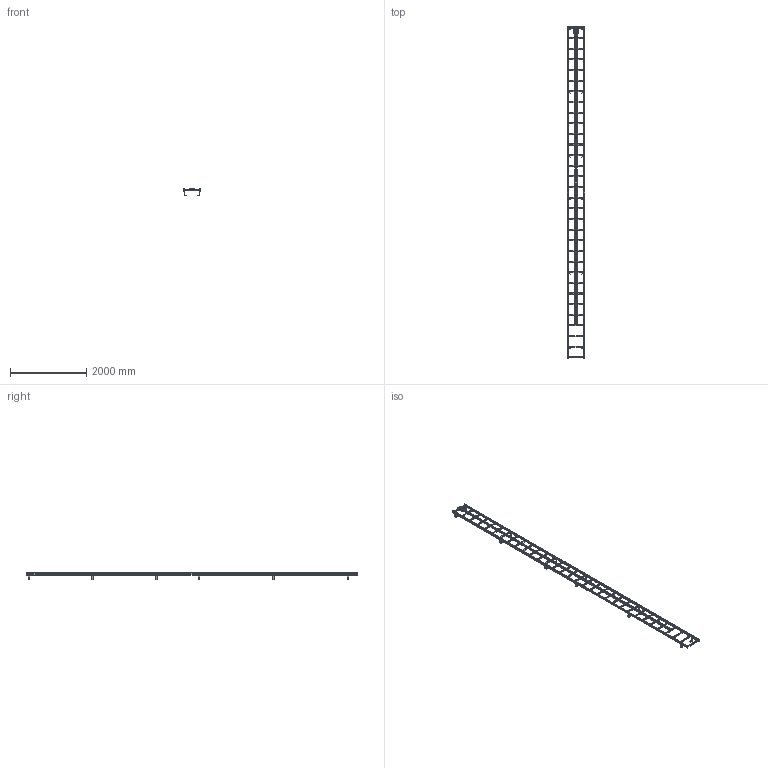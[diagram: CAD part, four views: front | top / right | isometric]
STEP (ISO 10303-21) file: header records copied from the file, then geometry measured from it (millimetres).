
FILE_DESCRIPTION((''),'2;1');
FILE_NAME('51535065_ASM','2020-09-11T08:59:36',('stat'),('HUBER SE'),'CREO PARAMETRIC BY PTC INC, 2019224','CREO PARAMETRIC BY PTC INC, 2019224','');
FILE_SCHEMA(('AUTOMOTIVE_DESIGN { 1 0 10303 214 1 1 1 1 }'));
Products named in the file (3): 50879501-600; 50425684-600; 51535065_ASM
Assembly tree (2 placements, depth 2):
  51535065_ASM
    50879501-600
    50425684-600
Bounding box: 450.24 x 8736 x 195 mm (x, y, z)
Volume: 10773676.1 mm3; surface area: 8556024.8 mm2
Topology: 4 solids, 4 shells, 5315 faces, 14832 edges, 9750 vertices
Faces by surface type: extrusion 2510, plane 2473, cylinder 332
Entity records: 218587 total; most frequent: CARTESIAN_POINT 52471, ORIENTED_EDGE 29664, DIRECTION 18626, EDGE_CURVE 14832, VECTOR 11606, VERTEX_POINT 9750, LINE 9096, B_SPLINE_CURVE_WITH_KNOTS 7546
